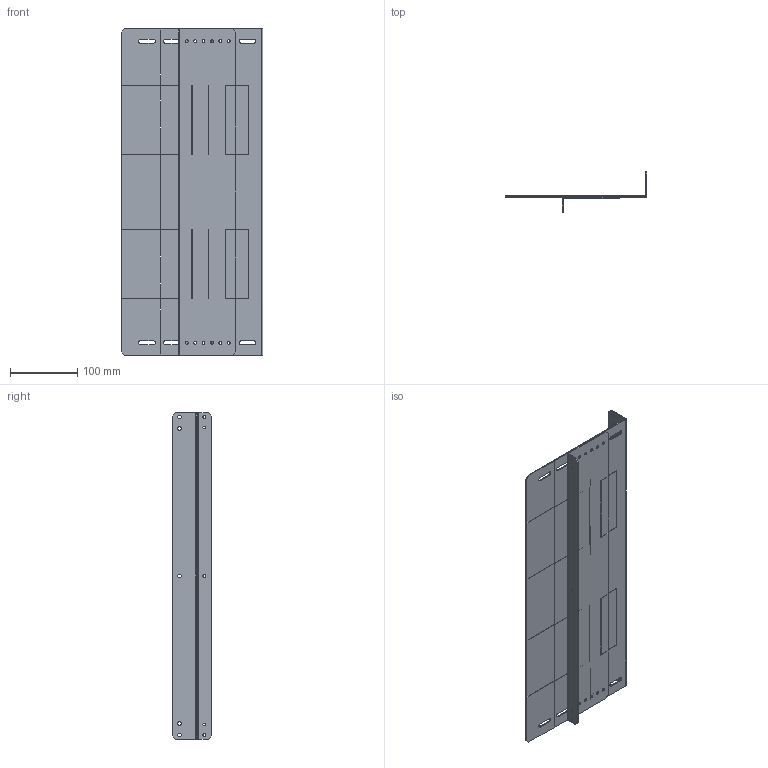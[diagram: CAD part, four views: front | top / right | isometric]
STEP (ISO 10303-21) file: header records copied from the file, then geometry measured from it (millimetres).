
FILE_DESCRIPTION(('CAx-IF Rec.Pracs.---Model Styling and Organization---1.2---2011-12-15','CAx-IF Rec.Pracs.---Geometric and Assembly Validation Properties---4.1---2014-06-16','CAx-IF Rec.Pracs.---PMI Polyline Presentation---2.0---2013-05-24'),'2;1');
FILE_NAME('R5D66.stp','2021-05-06T02:59:43+03:00',(''),(''),'STEP Interface 4.4 by CT CoreTechnologie','3D_Evolution4.4 by CT CoreTechnologie','');
FILE_SCHEMA(('AUTOMOTIVE_DESIGN { 1 0 10303 214 1 1 1 1 }'));
Length unit declared in the file: millimetre
Products named in the file (3): R5D66; RB.0694.00.00.1_-00; RB.0793.00.00.1_-00
Assembly tree (2 placements, depth 2):
  R5D66
    RB.0694.00.00.1_-00
    RB.0793.00.00.1_-00
Bounding box: 211.5 x 59.5 x 487 mm (x, y, z)
Surface area: 350329.8 mm2 (no closed solid volume)
Topology: 0 solids, 2 shells, 312 faces, 916 edges, 608 vertices
Faces by surface type: plane 244, cylinder 68
Entity records: 10698 total; most frequent: CARTESIAN_POINT 1839, ORIENTED_EDGE 1832, DIRECTION 1682, EDGE_CURVE 916, VECTOR 780, LINE 780, VERTEX_POINT 608, EDGE_LOOP 466
